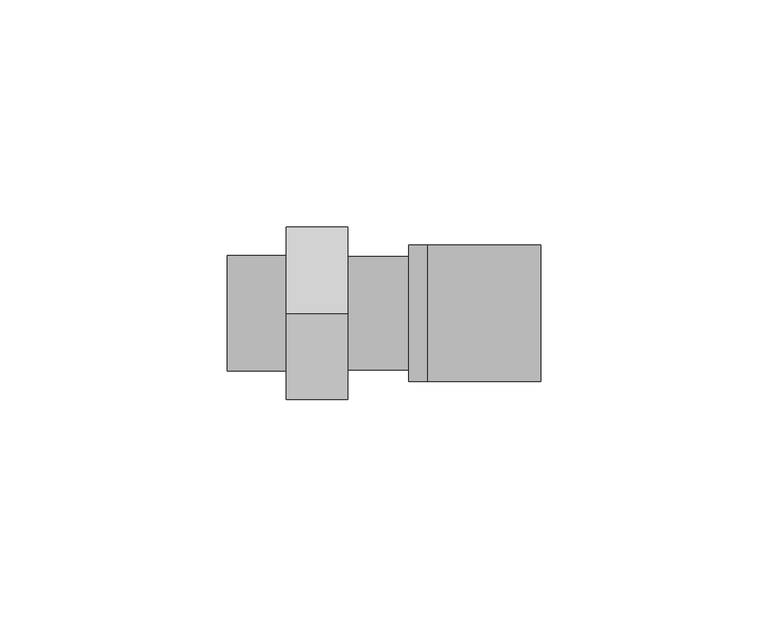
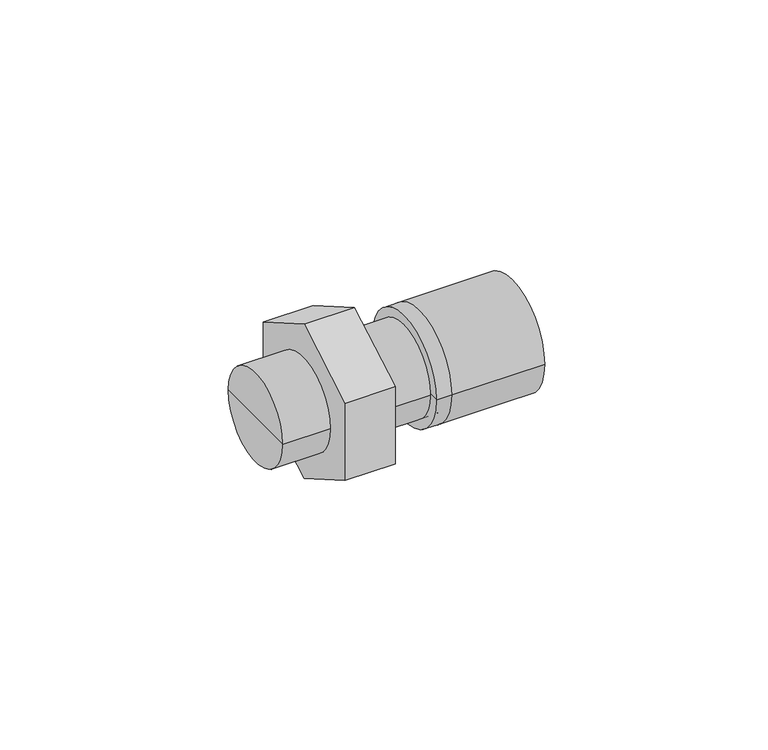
"""IFC4 building model written with IfcOpenShell, lengths in millimetres: pipe fitting geometry, KAN-therm Push złączka z gz 1 : KAN-therm Push złączka z gz 1."""

from ifc_helpers import new_model, si_unit, frame, origin, place, context, project, spatial, polyline, circle_curve, outline, extrude, source, transform, mapped, element, save
from ifc_brep_helpers import plane_surface, cylinder_surface, advanced_brep


def pipe_fitting_cc780ec7(model_context):
    return source(origin(), model_context, "Body", "SolidModel", [
        advanced_brep(
        [(31.0, -15.0, 0.0), (31.0, 15.0, 0.0), (31.0, 0.0, 0.0), (27.0, -15.0, 0.0), (27.0, 15.0, 0.0), (27.0, 0.0, 0.0)],
        [
            (0, 1, circle_curve(frame((31.0, 0.0, 0.0), z_axis=(1.0, 0.0, 0.0), x_axis=(0.0, 1.0, 0.0)), 15.0)),
            (1, 2),
            (2, 0),
            (1, 0, circle_curve(frame((31.0, 0.0, 0.0), z_axis=(1.0, 0.0, 0.0), x_axis=(0.0, 1.0, 0.0)), 15.0)),
            (3, 4, circle_curve(frame((27.0, 0.0, 0.0), z_axis=(1.0, 0.0, 0.0), x_axis=(0.0, 1.0, 0.0)), 15.0)),
            (4, 1),
            (0, 3),
            (4, 3, circle_curve(frame((27.0, 0.0, 0.0), z_axis=(1.0, 0.0, 0.0), x_axis=(0.0, 1.0, 0.0)), 15.0)),
            (5, 4),
            (3, 5),
        ],
        [
            plane_surface(frame((31.0, 0.0, 0.0), z_axis=(1.0, 0.0, 0.0), x_axis=(0.0, 1.0, 0.0))),
            cylinder_surface(frame((2033.0, 0.0, 0.0), z_axis=(-1.0, 0.0, 0.0), x_axis=(0.0, 1.0, 0.0)), 15.0),
            plane_surface(frame((27.0, 0.0, 0.0), z_axis=(-1.0, 0.0, 0.0), x_axis=(0.0, 1.0, 0.0))),
        ],
        [
            (0, [[1, 2, 3]]),
            (0, [[4, -3, -2]]),
            (1, [[5, 6, -1, 7]]),
            (1, [[8, -7, -4, -6]]),
            (2, [[9, -5, 10]]),
            (2, [[-10, -8, -9]]),
        ],
    ),
        advanced_brep(
        [(56.0, -15.0, 0.0), (56.0, 15.0, 0.0), (56.0, 0.0, 0.0), (31.0, -15.0, 0.0), (31.0, 15.0, 0.0), (31.0, 0.0, 0.0)],
        [
            (0, 1, circle_curve(frame((56.0, 0.0, 0.0), z_axis=(1.0, 0.0, 0.0), x_axis=(0.0, 1.0, 0.0)), 15.0)),
            (1, 2),
            (2, 0),
            (1, 0, circle_curve(frame((56.0, 0.0, 0.0), z_axis=(1.0, 0.0, 0.0), x_axis=(0.0, 1.0, 0.0)), 15.0)),
            (3, 4, circle_curve(frame((31.0, 0.0, 0.0), z_axis=(1.0, 0.0, 0.0), x_axis=(0.0, 1.0, 0.0)), 15.0)),
            (4, 1),
            (0, 3),
            (4, 3, circle_curve(frame((31.0, 0.0, 0.0), z_axis=(1.0, 0.0, 0.0), x_axis=(0.0, 1.0, 0.0)), 15.0)),
            (5, 4),
            (3, 5),
        ],
        [
            plane_surface(frame((56.0, 0.0, 0.0), z_axis=(1.0, 0.0, 0.0), x_axis=(0.0, 1.0, 0.0))),
            cylinder_surface(frame((2033.0, 0.0, 0.0), z_axis=(-1.0, 0.0, 0.0), x_axis=(0.0, 1.0, 0.0)), 15.0),
            plane_surface(frame((31.0, 0.0, 0.0), z_axis=(-1.0, 0.0, 0.0), x_axis=(0.0, 1.0, 0.0))),
        ],
        [
            (0, [[1, 2, 3]]),
            (0, [[4, -3, -2]]),
            (1, [[5, 6, -1, 7]]),
            (1, [[8, -7, -4, -6]]),
            (2, [[9, -5, 10]]),
            (2, [[-10, -8, -9]]),
        ],
    ),
        extrude(outline(polyline([(0.0, -21.9393102), (-19.0, -10.9696551), (-19.0, 10.9696551), (0.0, 21.9393102), (19.0, 10.9696551), (19.0, -10.9696551), (0.0, -21.9393102)])), frame((0.0, 0.0, 0.0), z_axis=(1.0, 0.0, 0.0), x_axis=(0.0, 1.0, 0.0)), (0.0, 0.0, 1.0), 13.5),
        advanced_brep(
        [(31.0, -12.5, 0.0), (31.0, 12.5, 0.0), (31.0, 0.0, 0.0), (13.5, -12.5, 0.0), (13.5, 12.5, 0.0), (13.5, 0.0, 0.0)],
        [
            (0, 1, circle_curve(frame((31.0, 0.0, 0.0), z_axis=(1.0, 0.0, 0.0), x_axis=(0.0, 1.0, 0.0)), 12.5)),
            (1, 2),
            (2, 0),
            (1, 0, circle_curve(frame((31.0, 0.0, 0.0), z_axis=(1.0, 0.0, 0.0), x_axis=(0.0, 1.0, 0.0)), 12.5)),
            (3, 4, circle_curve(frame((13.5, 0.0, 0.0), z_axis=(1.0, 0.0, 0.0), x_axis=(0.0, 1.0, 0.0)), 12.5)),
            (4, 1),
            (0, 3),
            (4, 3, circle_curve(frame((13.5, 0.0, 0.0), z_axis=(1.0, 0.0, 0.0), x_axis=(0.0, 1.0, 0.0)), 12.5)),
            (5, 4),
            (3, 5),
        ],
        [
            plane_surface(frame((31.0, 0.0, 0.0), z_axis=(1.0, 0.0, 0.0), x_axis=(0.0, 1.0, 0.0))),
            cylinder_surface(frame((2015.0, 0.0, 0.0), z_axis=(-1.0, 0.0, 0.0), x_axis=(0.0, 1.0, 0.0)), 12.5),
            plane_surface(frame((13.5, 0.0, 0.0), z_axis=(-1.0, 0.0, 0.0), x_axis=(0.0, 1.0, 0.0))),
        ],
        [
            (0, [[1, 2, 3]]),
            (0, [[4, -3, -2]]),
            (1, [[5, 6, -1, 7]]),
            (1, [[8, -7, -4, -6]]),
            (2, [[9, -5, 10]]),
            (2, [[-10, -8, -9]]),
        ],
    ),
        advanced_brep(
        [(0.0, -12.7, 0.0), (0.0, 12.7, 0.0), (0.0, 0.0, 0.0), (-13.0, -12.7, 0.0), (-13.0, 12.7, 0.0), (-13.0, 0.0, 0.0)],
        [
            (0, 1, circle_curve(frame((0.0, 0.0, 0.0), z_axis=(1.0, 0.0, 0.0), x_axis=(0.0, 1.0, 0.0)), 12.7)),
            (1, 2),
            (2, 0),
            (1, 0, circle_curve(frame((0.0, 0.0, 0.0), z_axis=(1.0, 0.0, 0.0), x_axis=(0.0, 1.0, 0.0)), 12.7)),
            (3, 4, circle_curve(frame((-13.0, 0.0, 0.0), z_axis=(1.0, 0.0, 0.0), x_axis=(0.0, 1.0, 0.0)), 12.7)),
            (4, 1),
            (0, 3),
            (4, 3, circle_curve(frame((-13.0, 0.0, 0.0), z_axis=(1.0, 0.0, 0.0), x_axis=(0.0, 1.0, 0.0)), 12.7)),
            (5, 4),
            (3, 5),
        ],
        [
            plane_surface(frame((0.0, 0.0, 0.0), z_axis=(1.0, 0.0, 0.0), x_axis=(0.0, 1.0, 0.0))),
            cylinder_surface(frame((2015.0, 0.0, 0.0), z_axis=(-1.0, 0.0, 0.0), x_axis=(0.0, 1.0, 0.0)), 12.7),
            plane_surface(frame((-13.0, 0.0, 0.0), z_axis=(-1.0, 0.0, 0.0), x_axis=(0.0, 1.0, 0.0))),
        ],
        [
            (0, [[1, 2, 3]]),
            (0, [[4, -3, -2]]),
            (1, [[5, 6, -1, 7]]),
            (1, [[8, -7, -4, -6]]),
            (2, [[9, -5, 10]]),
            (2, [[-10, -8, -9]]),
        ],
    ),
    ])


if __name__ == "__main__":
    model = new_model("IFC4")
    model_context = context("Model", 3, world=origin())
    ifc_project = project(units=[si_unit("LENGTHUNIT", "METRE", prefix="MILLI")], contexts=[model_context])
    site = spatial("IfcSite", under=ifc_project)
    building = spatial("IfcBuilding", under=site)
    placement = place(None, origin())
    pipe_fitting_shape = pipe_fitting_cc780ec7(model_context)
    element("IfcPipeFitting", 1, ObjectType="KAN-therm Push złączka z gz 1 : KAN-therm Push złączka z gz 1", at=placement, inside=building, context=model_context, shape_type="MappedRepresentation", body=[
        mapped(pipe_fitting_shape, transform((0.0, 0.0, 0.0), x_axis=(1.0, 0.0, 0.0), y_axis=(0.0, 1.0, 0.0), z_axis=(0.0, 0.0, 1.0))),
    ])
    save(model, "model.ifc")
